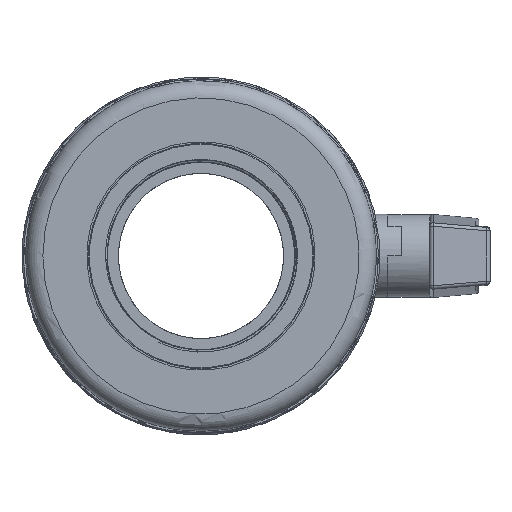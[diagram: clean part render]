
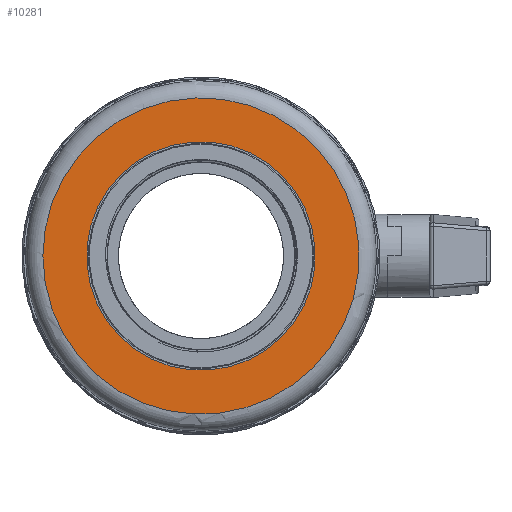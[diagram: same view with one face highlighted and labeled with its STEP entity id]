
A CAD part, front view. The second image highlights one B-rep face of the part: STEP entity #10281.
In plain terms, the highlighted planar face has unit normal (0, -1, 0).
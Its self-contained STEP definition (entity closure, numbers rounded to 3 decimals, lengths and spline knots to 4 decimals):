
#77=FACE_BOUND('',#3243,.T.);
#231=PLANE('',#11143);
#2587=FACE_OUTER_BOUND('',#3242,.T.);
#3242=EDGE_LOOP('',(#8183));
#3243=EDGE_LOOP('',(#8184));
#3733=CIRCLE('',#11039,9.275);
#3797=CIRCLE('',#11144,6.705);
#4512=VERTEX_POINT('',#40948);
#4572=VERTEX_POINT('',#44879);
#5707=EDGE_CURVE('',#4512,#4512,#3733,.T.);
#5829=EDGE_CURVE('',#4572,#4572,#3797,.T.);
#8183=ORIENTED_EDGE('',*,*,#5707,.F.);
#8184=ORIENTED_EDGE('',*,*,#5829,.T.);
#10281=ADVANCED_FACE('',(#2587,#77),#231,.T.);
#11039=AXIS2_PLACEMENT_3D('',#40949,#12874,#12875);
#11143=AXIS2_PLACEMENT_3D('',#44878,#13116,#13117);
#11144=AXIS2_PLACEMENT_3D('',#44880,#13118,#13119);
#12874=DIRECTION('center_axis',(0.,1.,0.));
#12875=DIRECTION('ref_axis',(-0.901,0.,0.433));
#13116=DIRECTION('center_axis',(0.,-1.,0.));
#13117=DIRECTION('ref_axis',(0.433,0.,0.901));
#13118=DIRECTION('center_axis',(0.,1.,0.));
#13119=DIRECTION('ref_axis',(-0.901,0.,0.433));
#40948=CARTESIAN_POINT('',(8.3592,-10.35,-4.0185));
#40949=CARTESIAN_POINT('Origin',(0.,-10.35,0.));
#44878=CARTESIAN_POINT('Origin',(8.3592,-10.35,-4.0185));
#44879=CARTESIAN_POINT('',(6.043,-10.35,-2.905));
#44880=CARTESIAN_POINT('Origin',(0.,-10.35,0.));
